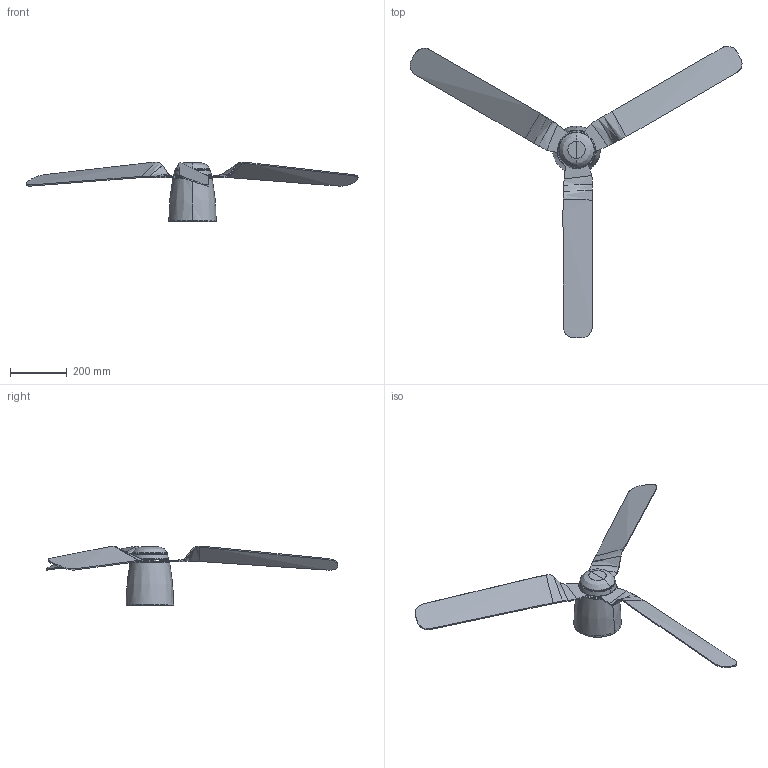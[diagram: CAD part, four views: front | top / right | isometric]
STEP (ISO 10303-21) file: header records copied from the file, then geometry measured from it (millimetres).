
FILE_DESCRIPTION(/* description */ (''),/* implementation_level */ '2;1');
FILE_NAME(/* name */ 'C:\Users\FrancoSartori\Documents\FARO\01_En Proceso\00_PEMBA\03_Publicación\33491-4.stp',/* time_stamp */ '2021-06-15T13:42:14+02:00',/* author */ ('FrancoSartori'),/* organization */ (''),/* preprocessor_version */ 'ST-DEVELOPER v18.1',/* originating_system */ 'AutoCAD Mechanical',/* authorisation */ '');
FILE_SCHEMA (('AUTOMOTIVE_DESIGN { 1 0 10303 214 3 1 1 }'));
Length unit declared in the file: millimetre
Products named in the file (2): Product; 33471N-3_ 33491-4_ 33492-5_ - fan-486157-Export
Assembly tree (1 placements, depth 2):
  Product
    33471N-3_ 33491-4_ 33492-5_ - fan-486157-Export
Bounding box: 1166.63 x 1023.77 x 210.31 mm (x, y, z)
Volume: 4174164.1 mm3; surface area: 616869.9 mm2
Topology: 7 solids, 7 shells, 174 faces, 478 edges, 312 vertices
Faces by surface type: cylinder 71, plane 55, bspline 30, torus 12, cone 6
Entity records: 6964 total; most frequent: CARTESIAN_POINT 2685, ORIENTED_EDGE 956, DIRECTION 772, EDGE_CURVE 478, VERTEX_POINT 312, AXIS2_PLACEMENT_3D 301, EDGE_LOOP 196, FACE_OUTER_BOUND 174
